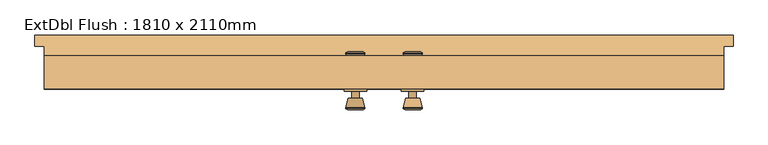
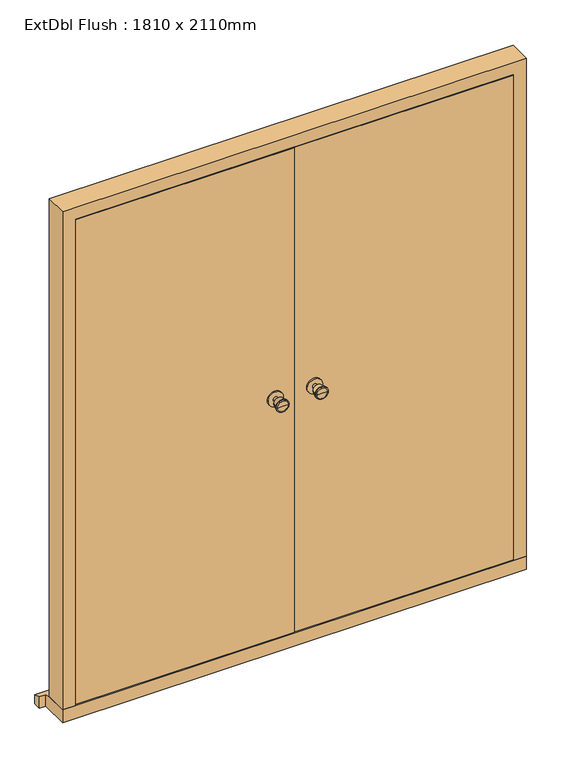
"""IFC4 building model written with IfcOpenShell, lengths in millimetres: door geometry, ExtDbl Flush : 1810 x 2110mm."""

from ifc_helpers import new_model, si_unit, point, frame, frame_2d, origin, place, context, project, spatial, polyline, circle_curve, trimmed, segment, composite_curve, outline, extrude, faceted_brep, source, transform, mapped, element, save
from ifc_brep_helpers import plane_surface, cylinder_surface, revolved_surface, advanced_brep


def extdbl_flush_1810_x_2110mm_6485e741(model_context):
    return source(origin(), model_context, "Body", "SolidModel", [
        advanced_brep(
        [(-76.5, 25.0, 1050.0), (-66.5, 25.0, 1050.0), (-86.5, 25.0, 1050.0), (-96.9758676, -24.0, 1050.0), (-56.0241324, -24.0, 1050.0), (-76.5, -24.0, 1050.0), (-101.5, -22.1721319, 1050.0), (-51.5, -22.1721319, 1050.0), (-101.5, -18.7084537, 1050.0), (-51.5, -18.7084537, 1050.0), (-95.136236, 6.0, 1050.0), (-57.863764, 6.0, 1050.0), (-86.5, 6.0, 1050.0), (-66.5, 6.0, 1050.0)],
        [
            (0, 1),
            (1, 2, circle_curve(frame((-76.5, 25.0, 1050.0), z_axis=(0.0, 1.0, 0.0), x_axis=(1.0, 0.0, 0.0)), 10.0)),
            (2, 0),
            (2, 1, circle_curve(frame((-76.5, 25.0, 1050.0), z_axis=(0.0, 1.0, 0.0), x_axis=(1.0, 0.0, 0.0)), 10.0)),
            (3, 4, circle_curve(frame((-76.5, -24.0, 1050.0), z_axis=(0.0, -1.0, 0.0), x_axis=(1.0, 0.0, 0.0)), 20.4758676)),
            (4, 5),
            (5, 3),
            (4, 3, circle_curve(frame((-76.5, -24.0, 1050.0), z_axis=(0.0, -1.0, 0.0), x_axis=(1.0, 0.0, 0.0)), 20.4758676)),
            (6, 7, circle_curve(frame((-76.5, -22.1721319, 1050.0), z_axis=(0.0, -1.0, 0.0), x_axis=(1.0, 0.0, 0.0)), 25.0)),
            (7, 4),
            (3, 6),
            (7, 6, circle_curve(frame((-76.5, -22.1721319, 1050.0), z_axis=(0.0, -1.0, 0.0), x_axis=(1.0, 0.0, 0.0)), 25.0)),
            (8, 9, circle_curve(frame((-76.5, -18.7084537, 1050.0), z_axis=(0.0, -1.0, 0.0), x_axis=(1.0, 0.0, 0.0)), 25.0)),
            (9, 7),
            (6, 8),
            (9, 8, circle_curve(frame((-76.5, -18.7084537, 1050.0), z_axis=(0.0, -1.0, 0.0), x_axis=(1.0, 0.0, 0.0)), 25.0)),
            (10, 11, circle_curve(frame((-76.5, 6.0, 1050.0), z_axis=(0.0, -1.0, 0.0), x_axis=(1.0, 0.0, 0.0)), 18.636236)),
            (11, 9),
            (8, 10),
            (11, 10, circle_curve(frame((-76.5, 6.0, 1050.0), z_axis=(0.0, -1.0, 0.0), x_axis=(1.0, 0.0, 0.0)), 18.636236)),
            (12, 13, circle_curve(frame((-76.5, 6.0, 1050.0), z_axis=(0.0, -1.0, 0.0), x_axis=(1.0, 0.0, 0.0)), 10.0)),
            (13, 11),
            (10, 12),
            (13, 12, circle_curve(frame((-76.5, 6.0, 1050.0), z_axis=(0.0, -1.0, 0.0), x_axis=(1.0, 0.0, 0.0)), 10.0)),
            (1, 13),
            (12, 2),
        ],
        [
            plane_surface(frame((-76.5, 25.0, 1050.0), z_axis=(0.0, 1.0, 0.0), x_axis=(1.0, 0.0, 0.0))),
            plane_surface(frame((-76.5, -24.0, 1050.0), z_axis=(0.0, -1.0, 0.0), x_axis=(1.0, 0.0, 0.0))),
            revolved_surface(polyline([(-56.0241324, -24.0, 1050.0), (-51.5, -22.1721319, 1050.0)]), (-76.5, 25.0, 1050.0), (0.0, 1.0, 0.0)),
            cylinder_surface(frame((-76.5, 25.0, 1050.0), z_axis=(0.0, 1.0, 0.0), x_axis=(1.0, 0.0, 0.0)), 25.0),
            revolved_surface(polyline([(-51.5, -18.7084537, 1050.0), (-57.863764, 6.0, 1050.0)]), (-76.5, 25.0, 1050.0), (0.0, 1.0, 0.0)),
            plane_surface(frame((-76.5, 6.0, 1050.0), z_axis=(0.0, 1.0, 0.0), x_axis=(1.0, 0.0, 0.0))),
            cylinder_surface(frame((-76.5, 25.0, 1050.0), z_axis=(0.0, 1.0, 0.0), x_axis=(1.0, 0.0, 0.0)), 10.0),
        ],
        [
            (0, [[1, 2, 3]]),
            (0, [[-3, 4, -1]]),
            (1, [[5, 6, 7]]),
            (1, [[8, -7, -6]]),
            (2, [[9, 10, -5, 11]]),
            (2, [[12, -11, -8, -10]]),
            (3, [[13, 14, -9, 15]]),
            (3, [[16, -15, -12, -14]]),
            (4, [[17, 18, -13, 19]]),
            (4, [[20, -19, -16, -18]]),
            (5, [[21, 22, -17, 23]]),
            (5, [[24, -23, -20, -22]]),
            (6, [[-2, 25, -21, 26]]),
            (6, [[-4, -26, -24, -25]]),
        ],
    ),
        extrude(outline(composite_curve([segment(trimmed(circle_curve(frame_2d((1050.0, -76.5)), 30.0), [point((1050.0, -46.5))], [point((1050.0, -106.5))], False, "CARTESIAN"), True, "CONTINUOUS"), segment(trimmed(circle_curve(frame_2d((1050.0, -76.5)), 30.0), [point((1050.0, -106.5))], [point((1050.0, -46.5))], False, "CARTESIAN"), True, "CONTINUOUS")], self_intersect=False)), frame((0.0, 25.0, 0.0), z_axis=(0.0, 1.0, 0.0), x_axis=(0.0, 0.0, 1.0)), (0.0, 0.0, 1.0), 6.0),
        advanced_brep(
        [(-76.5, 81.0, 1050.0), (-86.5, 81.0, 1050.0), (-66.5, 81.0, 1050.0), (-96.9758676, 130.0, 1050.0), (-76.5, 130.0, 1050.0), (-56.0241324, 130.0, 1050.0), (-101.5, 128.1721319, 1050.0), (-51.5, 128.1721319, 1050.0), (-101.5, 124.7084537, 1050.0), (-51.5, 124.7084537, 1050.0), (-95.136236, 100.0, 1050.0), (-57.863764, 100.0, 1050.0), (-86.5, 100.0, 1050.0), (-66.5, 100.0, 1050.0)],
        [
            (0, 1),
            (1, 2, circle_curve(frame((-76.5, 81.0, 1050.0), z_axis=(0.0, -1.0, 0.0), x_axis=(1.0, 0.0, 0.0)), 10.0)),
            (2, 0),
            (2, 1, circle_curve(frame((-76.5, 81.0, 1050.0), z_axis=(0.0, -1.0, 0.0), x_axis=(1.0, 0.0, 0.0)), 10.0)),
            (3, 4),
            (4, 5),
            (5, 3, circle_curve(frame((-76.5, 130.0, 1050.0), z_axis=(0.0, 1.0, 0.0), x_axis=(1.0, 0.0, 0.0)), 20.4758676)),
            (3, 5, circle_curve(frame((-76.5, 130.0, 1050.0), z_axis=(0.0, 1.0, 0.0), x_axis=(1.0, 0.0, 0.0)), 20.4758676)),
            (6, 3),
            (5, 7),
            (7, 6, circle_curve(frame((-76.5, 128.1721319, 1050.0), z_axis=(0.0, 1.0, 0.0), x_axis=(1.0, 0.0, 0.0)), 25.0)),
            (6, 7, circle_curve(frame((-76.5, 128.1721319, 1050.0), z_axis=(0.0, 1.0, 0.0), x_axis=(1.0, 0.0, 0.0)), 25.0)),
            (8, 6),
            (7, 9),
            (9, 8, circle_curve(frame((-76.5, 124.7084537, 1050.0), z_axis=(0.0, 1.0, 0.0), x_axis=(1.0, 0.0, 0.0)), 25.0)),
            (8, 9, circle_curve(frame((-76.5, 124.7084537, 1050.0), z_axis=(0.0, 1.0, 0.0), x_axis=(1.0, 0.0, 0.0)), 25.0)),
            (10, 8),
            (9, 11),
            (11, 10, circle_curve(frame((-76.5, 100.0, 1050.0), z_axis=(0.0, 1.0, 0.0), x_axis=(1.0, 0.0, 0.0)), 18.636236)),
            (10, 11, circle_curve(frame((-76.5, 100.0, 1050.0), z_axis=(0.0, 1.0, 0.0), x_axis=(1.0, 0.0, 0.0)), 18.636236)),
            (12, 10),
            (11, 13),
            (13, 12, circle_curve(frame((-76.5, 100.0, 1050.0), z_axis=(0.0, 1.0, 0.0), x_axis=(1.0, 0.0, 0.0)), 10.0)),
            (12, 13, circle_curve(frame((-76.5, 100.0, 1050.0), z_axis=(0.0, 1.0, 0.0), x_axis=(1.0, 0.0, 0.0)), 10.0)),
            (1, 12),
            (13, 2),
        ],
        [
            plane_surface(frame((-76.5, 81.0, 1050.0), z_axis=(0.0, -1.0, 0.0), x_axis=(1.0, 0.0, 0.0))),
            plane_surface(frame((-76.5, 130.0, 1050.0), z_axis=(0.0, 1.0, 0.0), x_axis=(1.0, 0.0, 0.0))),
            revolved_surface(polyline([(-56.0241324, 130.0, 1050.0), (-51.5, 128.1721319, 1050.0)]), (-76.5, 81.0, 1050.0), (0.0, -1.0, 0.0)),
            cylinder_surface(frame((-76.5, 81.0, 1050.0), z_axis=(0.0, -1.0, 0.0), x_axis=(1.0, 0.0, 0.0)), 25.0),
            revolved_surface(polyline([(-51.5, 124.7084537, 1050.0), (-57.863764, 100.0, 1050.0)]), (-76.5, 81.0, 1050.0), (0.0, -1.0, 0.0)),
            plane_surface(frame((-76.5, 100.0, 1050.0), z_axis=(0.0, -1.0, 0.0), x_axis=(1.0, 0.0, 0.0))),
            cylinder_surface(frame((-76.5, 81.0, 1050.0), z_axis=(0.0, -1.0, 0.0), x_axis=(1.0, 0.0, 0.0)), 10.0),
        ],
        [
            (0, [[1, 2, 3]]),
            (0, [[-3, 4, -1]]),
            (1, [[5, 6, 7]]),
            (1, [[-6, -5, 8]]),
            (2, [[9, -7, 10, 11]]),
            (2, [[-10, -8, -9, 12]]),
            (3, [[13, -11, 14, 15]]),
            (3, [[-14, -12, -13, 16]]),
            (4, [[17, -15, 18, 19]]),
            (4, [[-18, -16, -17, 20]]),
            (5, [[21, -19, 22, 23]]),
            (5, [[-22, -20, -21, 24]]),
            (6, [[25, -23, 26, -2]]),
            (6, [[-26, -24, -25, -4]]),
        ],
    ),
        extrude(outline(composite_curve([segment(trimmed(circle_curve(frame_2d((1050.0, -76.5)), 30.0), [point((1050.0, -46.5))], [point((1050.0, -106.5))], False, "CARTESIAN"), True, "CONTINUOUS"), segment(trimmed(circle_curve(frame_2d((1050.0, -76.5)), 30.0), [point((1050.0, -106.5))], [point((1050.0, -46.5))], False, "CARTESIAN"), True, "CONTINUOUS")], self_intersect=False)), frame((0.0, 75.0, 0.0), z_axis=(0.0, 1.0, 0.0), x_axis=(0.0, 0.0, 1.0)), (0.0, 0.0, 1.0), 6.0),
        advanced_brep(
        [(76.5, 25.0, 1050.0), (86.5, 25.0, 1050.0), (66.5, 25.0, 1050.0), (96.9758676, -24.0, 1050.0), (76.5, -24.0, 1050.0), (56.0241324, -24.0, 1050.0), (101.5, -22.1721319, 1050.0), (51.5, -22.1721319, 1050.0), (101.5, -18.7084537, 1050.0), (51.5, -18.7084537, 1050.0), (95.136236, 6.0, 1050.0), (57.863764, 6.0, 1050.0), (86.5, 6.0, 1050.0), (66.5, 6.0, 1050.0)],
        [
            (0, 1),
            (1, 2, circle_curve(frame((76.5, 25.0, 1050.0), z_axis=(0.0, 1.0, 0.0), x_axis=(-1.0, 0.0, 0.0)), 10.0)),
            (2, 0),
            (2, 1, circle_curve(frame((76.5, 25.0, 1050.0), z_axis=(0.0, 1.0, 0.0), x_axis=(-1.0, 0.0, 0.0)), 10.0)),
            (3, 4),
            (4, 5),
            (5, 3, circle_curve(frame((76.5, -24.0, 1050.0), z_axis=(0.0, -1.0, 0.0), x_axis=(-1.0, 0.0, 0.0)), 20.4758676)),
            (3, 5, circle_curve(frame((76.5, -24.0, 1050.0), z_axis=(0.0, -1.0, 0.0), x_axis=(-1.0, 0.0, 0.0)), 20.4758676)),
            (6, 3),
            (5, 7),
            (7, 6, circle_curve(frame((76.5, -22.1721319, 1050.0), z_axis=(0.0, -1.0, 0.0), x_axis=(-1.0, 0.0, 0.0)), 25.0)),
            (6, 7, circle_curve(frame((76.5, -22.1721319, 1050.0), z_axis=(0.0, -1.0, 0.0), x_axis=(-1.0, 0.0, 0.0)), 25.0)),
            (8, 6),
            (7, 9),
            (9, 8, circle_curve(frame((76.5, -18.7084537, 1050.0), z_axis=(0.0, -1.0, 0.0), x_axis=(-1.0, 0.0, 0.0)), 25.0)),
            (8, 9, circle_curve(frame((76.5, -18.7084537, 1050.0), z_axis=(0.0, -1.0, 0.0), x_axis=(-1.0, 0.0, 0.0)), 25.0)),
            (10, 8),
            (9, 11),
            (11, 10, circle_curve(frame((76.5, 6.0, 1050.0), z_axis=(0.0, -1.0, 0.0), x_axis=(-1.0, 0.0, 0.0)), 18.636236)),
            (10, 11, circle_curve(frame((76.5, 6.0, 1050.0), z_axis=(0.0, -1.0, 0.0), x_axis=(-1.0, 0.0, 0.0)), 18.636236)),
            (12, 10),
            (11, 13),
            (13, 12, circle_curve(frame((76.5, 6.0, 1050.0), z_axis=(0.0, -1.0, 0.0), x_axis=(-1.0, 0.0, 0.0)), 10.0)),
            (12, 13, circle_curve(frame((76.5, 6.0, 1050.0), z_axis=(0.0, -1.0, 0.0), x_axis=(-1.0, 0.0, 0.0)), 10.0)),
            (1, 12),
            (13, 2),
        ],
        [
            plane_surface(frame((76.5, 25.0, 1050.0), z_axis=(0.0, 1.0, 0.0), x_axis=(-1.0, 0.0, 0.0))),
            plane_surface(frame((76.5, -24.0, 1050.0), z_axis=(0.0, -1.0, 0.0), x_axis=(-1.0, 0.0, 0.0))),
            revolved_surface(polyline([(56.0241324, -24.0, 1050.0), (51.5, -22.1721319, 1050.0)]), (76.5, 25.0, 1050.0), (0.0, 1.0, 0.0)),
            cylinder_surface(frame((76.5, 25.0, 1050.0), z_axis=(0.0, 1.0, 0.0), x_axis=(-1.0, 0.0, 0.0)), 25.0),
            revolved_surface(polyline([(51.5, -18.7084537, 1050.0), (57.863764, 6.0, 1050.0)]), (76.5, 25.0, 1050.0), (0.0, 1.0, 0.0)),
            plane_surface(frame((76.5, 6.0, 1050.0), z_axis=(0.0, 1.0, 0.0), x_axis=(-1.0, 0.0, 0.0))),
            cylinder_surface(frame((76.5, 25.0, 1050.0), z_axis=(0.0, 1.0, 0.0), x_axis=(-1.0, 0.0, 0.0)), 10.0),
        ],
        [
            (0, [[1, 2, 3]]),
            (0, [[-3, 4, -1]]),
            (1, [[5, 6, 7]]),
            (1, [[-6, -5, 8]]),
            (2, [[9, -7, 10, 11]]),
            (2, [[-10, -8, -9, 12]]),
            (3, [[13, -11, 14, 15]]),
            (3, [[-14, -12, -13, 16]]),
            (4, [[17, -15, 18, 19]]),
            (4, [[-18, -16, -17, 20]]),
            (5, [[21, -19, 22, 23]]),
            (5, [[-22, -20, -21, 24]]),
            (6, [[25, -23, 26, -2]]),
            (6, [[-26, -24, -25, -4]]),
        ],
    ),
        extrude(outline(composite_curve([segment(trimmed(circle_curve(frame_2d((1050.0, 76.5)), 30.0), [point((1050.0, 46.5))], [point((1050.0, 106.5))], False, "CARTESIAN"), True, "CONTINUOUS"), segment(trimmed(circle_curve(frame_2d((1050.0, 76.5)), 30.0), [point((1050.0, 106.5))], [point((1050.0, 46.5))], False, "CARTESIAN"), True, "CONTINUOUS")], self_intersect=False)), frame((0.0, 25.0, 0.0), z_axis=(0.0, 1.0, 0.0), x_axis=(0.0, 0.0, 1.0)), (0.0, 0.0, 1.0), 6.0),
        advanced_brep(
        [(76.5, 81.0, 1050.0), (66.5, 81.0, 1050.0), (86.5, 81.0, 1050.0), (96.9758676, 130.0, 1050.0), (56.0241324, 130.0, 1050.0), (76.5, 130.0, 1050.0), (101.5, 128.1721319, 1050.0), (51.5, 128.1721319, 1050.0), (101.5, 124.7084537, 1050.0), (51.5, 124.7084537, 1050.0), (95.136236, 100.0, 1050.0), (57.863764, 100.0, 1050.0), (86.5, 100.0, 1050.0), (66.5, 100.0, 1050.0)],
        [
            (0, 1),
            (1, 2, circle_curve(frame((76.5, 81.0, 1050.0), z_axis=(0.0, -1.0, 0.0), x_axis=(-1.0, 0.0, 0.0)), 10.0)),
            (2, 0),
            (2, 1, circle_curve(frame((76.5, 81.0, 1050.0), z_axis=(0.0, -1.0, 0.0), x_axis=(-1.0, 0.0, 0.0)), 10.0)),
            (3, 4, circle_curve(frame((76.5, 130.0, 1050.0), z_axis=(0.0, 1.0, 0.0), x_axis=(-1.0, 0.0, 0.0)), 20.4758676)),
            (4, 5),
            (5, 3),
            (4, 3, circle_curve(frame((76.5, 130.0, 1050.0), z_axis=(0.0, 1.0, 0.0), x_axis=(-1.0, 0.0, 0.0)), 20.4758676)),
            (6, 7, circle_curve(frame((76.5, 128.1721319, 1050.0), z_axis=(0.0, 1.0, 0.0), x_axis=(-1.0, 0.0, 0.0)), 25.0)),
            (7, 4),
            (3, 6),
            (7, 6, circle_curve(frame((76.5, 128.1721319, 1050.0), z_axis=(0.0, 1.0, 0.0), x_axis=(-1.0, 0.0, 0.0)), 25.0)),
            (8, 9, circle_curve(frame((76.5, 124.7084537, 1050.0), z_axis=(0.0, 1.0, 0.0), x_axis=(-1.0, 0.0, 0.0)), 25.0)),
            (9, 7),
            (6, 8),
            (9, 8, circle_curve(frame((76.5, 124.7084537, 1050.0), z_axis=(0.0, 1.0, 0.0), x_axis=(-1.0, 0.0, 0.0)), 25.0)),
            (10, 11, circle_curve(frame((76.5, 100.0, 1050.0), z_axis=(0.0, 1.0, 0.0), x_axis=(-1.0, 0.0, 0.0)), 18.636236)),
            (11, 9),
            (8, 10),
            (11, 10, circle_curve(frame((76.5, 100.0, 1050.0), z_axis=(0.0, 1.0, 0.0), x_axis=(-1.0, 0.0, 0.0)), 18.636236)),
            (12, 13, circle_curve(frame((76.5, 100.0, 1050.0), z_axis=(0.0, 1.0, 0.0), x_axis=(-1.0, 0.0, 0.0)), 10.0)),
            (13, 11),
            (10, 12),
            (13, 12, circle_curve(frame((76.5, 100.0, 1050.0), z_axis=(0.0, 1.0, 0.0), x_axis=(-1.0, 0.0, 0.0)), 10.0)),
            (1, 13),
            (12, 2),
        ],
        [
            plane_surface(frame((76.5, 81.0, 1050.0), z_axis=(0.0, -1.0, 0.0), x_axis=(-1.0, 0.0, 0.0))),
            plane_surface(frame((76.5, 130.0, 1050.0), z_axis=(0.0, 1.0, 0.0), x_axis=(-1.0, 0.0, 0.0))),
            revolved_surface(polyline([(56.0241324, 130.0, 1050.0), (51.5, 128.1721319, 1050.0)]), (76.5, 81.0, 1050.0), (0.0, -1.0, 0.0)),
            cylinder_surface(frame((76.5, 81.0, 1050.0), z_axis=(0.0, -1.0, 0.0), x_axis=(-1.0, 0.0, 0.0)), 25.0),
            revolved_surface(polyline([(51.5, 124.7084537, 1050.0), (57.863764, 100.0, 1050.0)]), (76.5, 81.0, 1050.0), (0.0, -1.0, 0.0)),
            plane_surface(frame((76.5, 100.0, 1050.0), z_axis=(0.0, -1.0, 0.0), x_axis=(-1.0, 0.0, 0.0))),
            cylinder_surface(frame((76.5, 81.0, 1050.0), z_axis=(0.0, -1.0, 0.0), x_axis=(-1.0, 0.0, 0.0)), 10.0),
        ],
        [
            (0, [[1, 2, 3]]),
            (0, [[-3, 4, -1]]),
            (1, [[5, 6, 7]]),
            (1, [[8, -7, -6]]),
            (2, [[9, 10, -5, 11]]),
            (2, [[12, -11, -8, -10]]),
            (3, [[13, 14, -9, 15]]),
            (3, [[16, -15, -12, -14]]),
            (4, [[17, 18, -13, 19]]),
            (4, [[20, -19, -16, -18]]),
            (5, [[21, 22, -17, 23]]),
            (5, [[24, -23, -20, -22]]),
            (6, [[-2, 25, -21, 26]]),
            (6, [[-4, -26, -24, -25]]),
        ],
    ),
        extrude(outline(composite_curve([segment(trimmed(circle_curve(frame_2d((1050.0, 76.5)), 30.0), [point((1050.0, 46.5))], [point((1050.0, 106.5))], False, "CARTESIAN"), True, "CONTINUOUS"), segment(trimmed(circle_curve(frame_2d((1050.0, 76.5)), 30.0), [point((1050.0, 106.5))], [point((1050.0, 46.5))], False, "CARTESIAN"), True, "CONTINUOUS")], self_intersect=False)), frame((0.0, 75.0, 0.0), z_axis=(0.0, 1.0, 0.0), x_axis=(0.0, 0.0, 1.0)), (0.0, 0.0, 1.0), 6.0),
        faceted_brep([(834.5, 120.0, 54.5), (905.0, 120.0, 54.5), (905.0, 31.0, 54.5), (856.5, 31.0, 54.5), (856.5, 78.0, 54.5), (834.5, 78.0, 54.5), (834.5, 120.0, 2039.5), (-834.5, 120.0, 2039.5), (-834.5, 120.0, 54.5), (-905.0, 120.0, 54.5), (-905.0, 120.0, 2110.0), (905.0, 120.0, 2110.0), (905.0, 31.0, 2110.0), (-905.0, 31.0, 2110.0), (-905.0, 31.0, 54.5), (-856.5, 31.0, 54.5), (-856.5, 31.0, 2061.5), (856.5, 31.0, 2061.5), (856.5, 78.0, 2061.5), (-856.5, 78.0, 2061.5), (-856.5, 78.0, 54.5), (-834.5, 78.0, 54.5), (-834.5, 78.0, 2039.5), (834.5, 78.0, 2039.5)], [[[0, 1, 2, 3, 4, 5]], [[1, 0, 6, 7, 8, 9, 10, 11]], [[2, 1, 11, 12]], [[3, 2, 12, 13, 14, 15, 16, 17]], [[4, 3, 17, 18]], [[5, 4, 18, 19, 20, 21, 22, 23]], [[0, 5, 23, 6]], [[12, 11, 10, 13]], [[18, 17, 16, 19]], [[6, 23, 22, 7]], [[8, 21, 20, 15, 14, 9]], [[13, 10, 9, 14]], [[19, 16, 15, 20]], [[7, 22, 21, 8]]]),
        faceted_brep([(930.0, 175.0, 0.0), (930.0, 175.0, 38.5947221), (930.0, 145.0, 47.2703282), (930.0, 145.0, 0.0), (-930.0, 175.0, 38.5947221), (-930.0, 175.0, 0.0), (-930.0, 145.0, 0.0), (-930.0, 145.0, 47.2703282), (905.0, 145.0, 0.0), (905.0, 31.0, 0.0), (-905.0, 31.0, 0.0), (-905.0, 145.0, 0.0), (-905.0, 145.0, 47.2703282), (-905.0, 120.0, 54.5), (905.0, 120.0, 54.5), (905.0, 145.0, 47.2703282), (-905.0, 31.0, 54.5), (905.0, 31.0, 54.5)], [[[0, 1, 2, 3]], [[4, 5, 6, 7]], [[5, 0, 3, 8, 9, 10, 11, 6]], [[1, 0, 5, 4]], [[1, 4, 7, 12, 13, 14, 15, 2]], [[13, 16, 17, 14]], [[16, 10, 9, 17]], [[12, 11, 10, 16, 13]], [[11, 12, 7, 6]], [[8, 15, 14, 17, 9]], [[15, 8, 3, 2]]]),
        extrude(outline(polyline([(853.5, 31.0), (1.5, 31.0), (1.5, 75.0), (853.5, 75.0), (853.5, 31.0)])), frame((0.0, 0.0, 58.5), z_axis=(0.0, 0.0, 1.0), x_axis=(1.0, 0.0, 0.0)), (0.0, 0.0, 1.0), 2000.0),
        extrude(outline(polyline([(-1.5, 31.0), (-853.5, 31.0), (-853.5, 75.0), (-1.5, 75.0), (-1.5, 31.0)])), frame((0.0, 0.0, 58.5), z_axis=(0.0, 0.0, 1.0), x_axis=(1.0, 0.0, 0.0)), (0.0, 0.0, 1.0), 2000.0),
    ])


if __name__ == "__main__":
    model = new_model("IFC4")
    model_context = context("Model", 3, world=origin())
    ifc_project = project(units=[si_unit("LENGTHUNIT", "METRE", prefix="MILLI")], contexts=[model_context])
    site = spatial("IfcSite", under=ifc_project)
    building = spatial("IfcBuilding", under=site)
    placement = place(None, origin())
    extdbl_flush_1810_x_2110mm_shape = extdbl_flush_1810_x_2110mm_6485e741(model_context)
    element("IfcDoor", 1, ObjectType="ExtDbl Flush : 1810 x 2110mm", at=placement, inside=building, context=model_context, shape_type="MappedRepresentation", body=[
        mapped(extdbl_flush_1810_x_2110mm_shape, transform((0.0, 0.0, 0.0), x_axis=(1.0, 0.0, 0.0), y_axis=(0.0, 1.0, 0.0), z_axis=(0.0, 0.0, 1.0))),
    ])
    save(model, "model.ifc")
